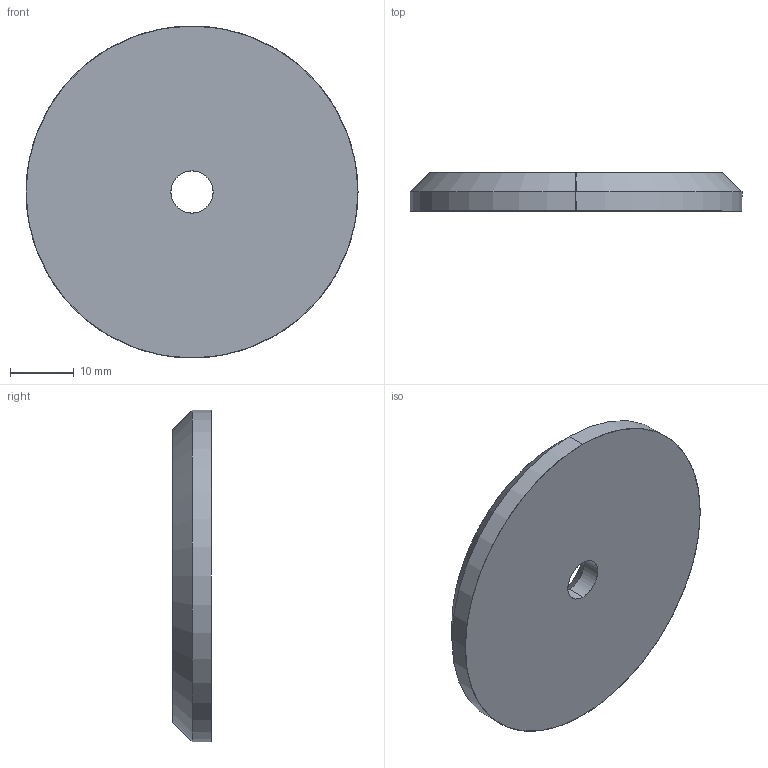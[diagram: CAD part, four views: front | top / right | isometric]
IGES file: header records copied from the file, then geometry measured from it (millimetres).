
Start section: SolidWorks IGES file using analytic representation for surfaces
Global section: file name: C:\Documents and Settings\IANO\Desktop\Temp File\Process pending\EXISTING\36720_v2\36720_v2_20170629_IGES\36720.W0552.igs; native system: SolidWorks 2009; preprocessor: SolidWorks 2009; author: IANO; date: 170627.111040; units: millimetre
Bounding box: 52 x 6 x 52 mm (x, y, z)
Surface area: 4960.1 mm2 (no closed solid volume)
Topology: 0 solids, 0 shells, 10 faces, 224 edges, 224 vertices
Faces by surface type: revolution 8, bspline 2
